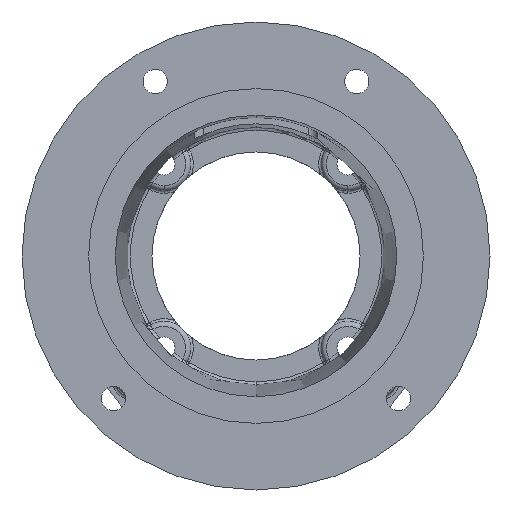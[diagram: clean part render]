
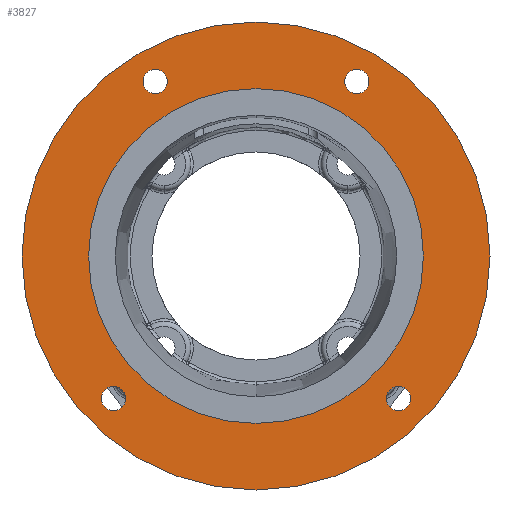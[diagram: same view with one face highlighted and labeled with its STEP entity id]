
A CAD part, front view. The second image highlights one B-rep face of the part: STEP entity #3827.
In plain terms, the highlighted planar face has unit normal (0, -1, 0).
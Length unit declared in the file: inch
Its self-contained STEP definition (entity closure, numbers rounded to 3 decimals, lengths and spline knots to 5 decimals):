
#1 = CIRCLE ( 'NONE', #11114, 0.23438 ) ;
#109 = EDGE_LOOP ( 'NONE', ( #3209, #9707 ) ) ;
#156 = DIRECTION ( 'NONE',  ( 0., 0., -1. ) ) ;
#213 = DIRECTION ( 'NONE',  ( 0., -1., 0. ) ) ;
#216 = CIRCLE ( 'NONE', #1615, 3.2195 ) ;
#262 = CARTESIAN_POINT ( 'NONE',  ( -1.9375, 0., 3.35585 ) ) ;
#394 = ORIENTED_EDGE ( 'NONE', *, *, #9158, .F. ) ;
#477 = VERTEX_POINT ( 'NONE', #10750 ) ;
#533 = DIRECTION ( 'NONE',  ( 0., -1., 0. ) ) ;
#555 = CIRCLE ( 'NONE', #3191, 3.2195 ) ;
#573 = EDGE_LOOP ( 'NONE', ( #5883, #3723 ) ) ;
#635 = EDGE_CURVE ( 'NONE', #10255, #6913, #11573, .T. ) ;
#678 = DIRECTION ( 'NONE',  ( 0., 0., -1. ) ) ;
#692 = DIRECTION ( 'NONE',  ( 0., -1., 0. ) ) ;
#850 = EDGE_CURVE ( 'NONE', #6913, #10255, #8129, .T. ) ;
#929 = DIRECTION ( 'NONE',  ( 0., -1., 0. ) ) ;
#980 = ORIENTED_EDGE ( 'NONE', *, *, #635, .F. ) ;
#1002 = AXIS2_PLACEMENT_3D ( 'NONE', #6280, #692, #7187 ) ;
#1024 = FACE_BOUND ( 'NONE', #10030, .T. ) ;
#1076 = EDGE_CURVE ( 'NONE', #8700, #4529, #4807, .T. ) ;
#1237 = CARTESIAN_POINT ( 'NONE',  ( -4.5, 0., 0. ) ) ;
#1289 = AXIS2_PLACEMENT_3D ( 'NONE', #10808, #10724, #10609 ) ;
#1298 = PLANE ( 'NONE',  #6842 ) ;
#1311 = DIRECTION ( 'NONE',  ( 0., 1., 0. ) ) ;
#1345 = EDGE_CURVE ( 'NONE', #5853, #1747, #3658, .T. ) ;
#1385 = CIRCLE ( 'NONE', #2108, 0.23438 ) ;
#1391 = DIRECTION ( 'NONE',  ( 0., 0., 1. ) ) ;
#1395 = EDGE_CURVE ( 'NONE', #6640, #9979, #555, .T. ) ;
#1615 = AXIS2_PLACEMENT_3D ( 'NONE', #10777, #10738, #10705 ) ;
#1641 = CARTESIAN_POINT ( 'NONE',  ( 2.74004, 0., -2.74004 ) ) ;
#1747 = VERTEX_POINT ( 'NONE', #4782 ) ;
#1860 = AXIS2_PLACEMENT_3D ( 'NONE', #1982, #8439, #2933 ) ;
#1919 = AXIS2_PLACEMENT_3D ( 'NONE', #1641, #929, #678 ) ;
#1982 = CARTESIAN_POINT ( 'NONE',  ( 0., 0., 0. ) ) ;
#2082 = DIRECTION ( 'NONE',  ( 0., -1., 0. ) ) ;
#2108 = AXIS2_PLACEMENT_3D ( 'NONE', #6147, #533, #7045 ) ;
#2113 = CARTESIAN_POINT ( 'NONE',  ( 2.74004, 0., -2.50566 ) ) ;
#2612 = CIRCLE ( 'NONE', #1860, 4.5 ) ;
#2658 = DIRECTION ( 'NONE',  ( 0., 0., -1. ) ) ;
#2673 = DIRECTION ( 'NONE',  ( 0., -1., 0. ) ) ;
#2704 = CARTESIAN_POINT ( 'NONE',  ( -1.9375, 0., 3.35585 ) ) ;
#2859 = ORIENTED_EDGE ( 'NONE', *, *, #7450, .T. ) ;
#2933 = DIRECTION ( 'NONE',  ( 0., 0., -1. ) ) ;
#3191 = AXIS2_PLACEMENT_3D ( 'NONE', #8681, #8633, #8602 ) ;
#3209 = ORIENTED_EDGE ( 'NONE', *, *, #4830, .F. ) ;
#3275 = ORIENTED_EDGE ( 'NONE', *, *, #850, .F. ) ;
#3352 = CARTESIAN_POINT ( 'NONE',  ( 0., 0., 4.5 ) ) ;
#3430 = CIRCLE ( 'NONE', #1002, 4.5 ) ;
#3475 = CIRCLE ( 'NONE', #9495, 0.23438 ) ;
#3483 = EDGE_LOOP ( 'NONE', ( #394, #5815 ) ) ;
#3523 = FACE_BOUND ( 'NONE', #3483, .T. ) ;
#3655 = AXIS2_PLACEMENT_3D ( 'NONE', #262, #213, #156 ) ;
#3658 = CIRCLE ( 'NONE', #1289, 0.23438 ) ;
#3697 = CARTESIAN_POINT ( 'NONE',  ( 1.9375, 0., 3.35585 ) ) ;
#3723 = ORIENTED_EDGE ( 'NONE', *, *, #1395, .F. ) ;
#3827 = ADVANCED_FACE ( 'NONE', ( #1024, #3523, #8703, #10613, #8144, #5694 ), #1298, .F. ) ;
#4234 = CIRCLE ( 'NONE', #1919, 0.23438 ) ;
#4403 = CARTESIAN_POINT ( 'NONE',  ( 1.9375, 0., 3.59022 ) ) ;
#4529 = VERTEX_POINT ( 'NONE', #7269 ) ;
#4624 = DIRECTION ( 'NONE',  ( 0., 0., -1. ) ) ;
#4782 = CARTESIAN_POINT ( 'NONE',  ( 2.74004, 0., -2.97441 ) ) ;
#4807 = CIRCLE ( 'NONE', #9813, 0.23438 ) ;
#4830 = EDGE_CURVE ( 'NONE', #1747, #5853, #4234, .T. ) ;
#5694 = FACE_OUTER_BOUND ( 'NONE', #8845, .T. ) ;
#5804 = EDGE_CURVE ( 'NONE', #9979, #6640, #216, .T. ) ;
#5815 = ORIENTED_EDGE ( 'NONE', *, *, #7342, .F. ) ;
#5853 = VERTEX_POINT ( 'NONE', #2113 ) ;
#5855 = CARTESIAN_POINT ( 'NONE',  ( 0., 0., -3.2195 ) ) ;
#5883 = ORIENTED_EDGE ( 'NONE', *, *, #5804, .F. ) ;
#6088 = ORIENTED_EDGE ( 'NONE', *, *, #9687, .T. ) ;
#6147 = CARTESIAN_POINT ( 'NONE',  ( 1.9375, 0., 3.35585 ) ) ;
#6229 = EDGE_LOOP ( 'NONE', ( #7371, #11480 ) ) ;
#6280 = CARTESIAN_POINT ( 'NONE',  ( 0., 0., 0. ) ) ;
#6640 = VERTEX_POINT ( 'NONE', #6847 ) ;
#6842 = AXIS2_PLACEMENT_3D ( 'NONE', #1237, #1311, #1391 ) ;
#6847 = CARTESIAN_POINT ( 'NONE',  ( 0., 0., 3.2195 ) ) ;
#6913 = VERTEX_POINT ( 'NONE', #10322 ) ;
#6965 = AXIS2_PLACEMENT_3D ( 'NONE', #2704, #2673, #2658 ) ;
#7045 = DIRECTION ( 'NONE',  ( 0., 0., -1. ) ) ;
#7187 = DIRECTION ( 'NONE',  ( 0., 0., -1. ) ) ;
#7269 = CARTESIAN_POINT ( 'NONE',  ( -2.74004, 0., -2.50566 ) ) ;
#7328 = CARTESIAN_POINT ( 'NONE',  ( -2.74004, 0., -2.97441 ) ) ;
#7342 = EDGE_CURVE ( 'NONE', #8130, #9991, #3475, .T. ) ;
#7371 = ORIENTED_EDGE ( 'NONE', *, *, #1076, .F. ) ;
#7386 = DIRECTION ( 'NONE',  ( 0., 0., -1. ) ) ;
#7426 = DIRECTION ( 'NONE',  ( 0., -1., 0. ) ) ;
#7450 = EDGE_CURVE ( 'NONE', #477, #11621, #2612, .T. ) ;
#7451 = CARTESIAN_POINT ( 'NONE',  ( -2.74004, 0., -2.74004 ) ) ;
#7609 = CARTESIAN_POINT ( 'NONE',  ( -2.74004, 0., -2.74004 ) ) ;
#8129 = CIRCLE ( 'NONE', #3655, 0.23438 ) ;
#8130 = VERTEX_POINT ( 'NONE', #4403 ) ;
#8144 = FACE_BOUND ( 'NONE', #573, .T. ) ;
#8439 = DIRECTION ( 'NONE',  ( 0., -1., 0. ) ) ;
#8537 = DIRECTION ( 'NONE',  ( 0., 0., -1. ) ) ;
#8602 = DIRECTION ( 'NONE',  ( 0., 0., -1. ) ) ;
#8633 = DIRECTION ( 'NONE',  ( 0., -1., 0. ) ) ;
#8681 = CARTESIAN_POINT ( 'NONE',  ( 0., 0., 0. ) ) ;
#8700 = VERTEX_POINT ( 'NONE', #7328 ) ;
#8703 = FACE_BOUND ( 'NONE', #109, .T. ) ;
#8845 = EDGE_LOOP ( 'NONE', ( #2859, #6088 ) ) ;
#9158 = EDGE_CURVE ( 'NONE', #9991, #8130, #1385, .T. ) ;
#9495 = AXIS2_PLACEMENT_3D ( 'NONE', #3697, #10159, #4624 ) ;
#9536 = CARTESIAN_POINT ( 'NONE',  ( 1.9375, 0., 3.12147 ) ) ;
#9687 = EDGE_CURVE ( 'NONE', #11621, #477, #3430, .T. ) ;
#9707 = ORIENTED_EDGE ( 'NONE', *, *, #1345, .F. ) ;
#9813 = AXIS2_PLACEMENT_3D ( 'NONE', #7451, #7426, #7386 ) ;
#9979 = VERTEX_POINT ( 'NONE', #5855 ) ;
#9991 = VERTEX_POINT ( 'NONE', #9536 ) ;
#10030 = EDGE_LOOP ( 'NONE', ( #3275, #980 ) ) ;
#10159 = DIRECTION ( 'NONE',  ( 0., -1., 0. ) ) ;
#10255 = VERTEX_POINT ( 'NONE', #10992 ) ;
#10322 = CARTESIAN_POINT ( 'NONE',  ( -1.9375, 0., 3.12147 ) ) ;
#10504 = EDGE_CURVE ( 'NONE', #4529, #8700, #1, .T. ) ;
#10609 = DIRECTION ( 'NONE',  ( 0., 0., -1. ) ) ;
#10613 = FACE_BOUND ( 'NONE', #6229, .T. ) ;
#10705 = DIRECTION ( 'NONE',  ( 0., 0., -1. ) ) ;
#10724 = DIRECTION ( 'NONE',  ( 0., -1., 0. ) ) ;
#10738 = DIRECTION ( 'NONE',  ( 0., -1., 0. ) ) ;
#10750 = CARTESIAN_POINT ( 'NONE',  ( 0., 0., -4.5 ) ) ;
#10777 = CARTESIAN_POINT ( 'NONE',  ( 0., 0., 0. ) ) ;
#10808 = CARTESIAN_POINT ( 'NONE',  ( 2.74004, 0., -2.74004 ) ) ;
#10992 = CARTESIAN_POINT ( 'NONE',  ( -1.9375, 0., 3.59022 ) ) ;
#11114 = AXIS2_PLACEMENT_3D ( 'NONE', #7609, #2082, #8537 ) ;
#11480 = ORIENTED_EDGE ( 'NONE', *, *, #10504, .F. ) ;
#11573 = CIRCLE ( 'NONE', #6965, 0.23438 ) ;
#11621 = VERTEX_POINT ( 'NONE', #3352 ) ;
